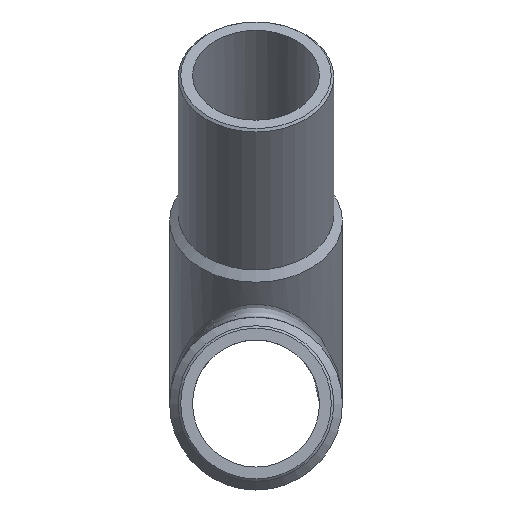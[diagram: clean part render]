
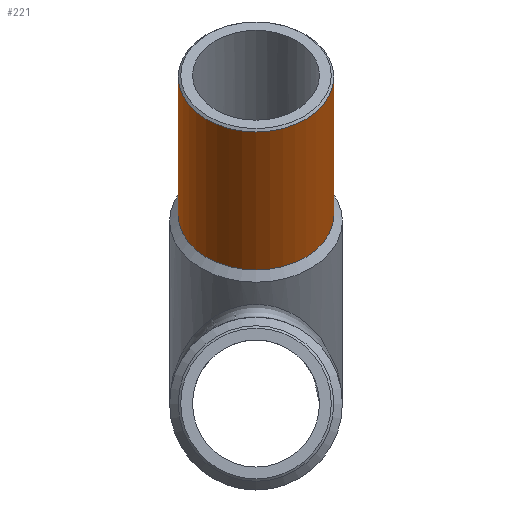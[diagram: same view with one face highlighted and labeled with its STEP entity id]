
A CAD part, left-side view. The second image highlights one B-rep face of the part: STEP entity #221.
In plain terms, the highlighted cylindrical face has radius 31.5 mm (diameter 63 mm), a full revolution.
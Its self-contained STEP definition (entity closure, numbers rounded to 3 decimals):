
#41=CIRCLE('',#267,31.5);
#42=CIRCLE('',#268,31.5);
#66=ORIENTED_EDGE('',*,*,#102,.T.);
#67=ORIENTED_EDGE('',*,*,#103,.T.);
#102=EDGE_CURVE('',#123,#123,#41,.T.);
#103=EDGE_CURVE('',#124,#124,#42,.T.);
#123=VERTEX_POINT('',#396);
#124=VERTEX_POINT('',#398);
#152=EDGE_LOOP('',(#66));
#153=EDGE_LOOP('',(#67));
#188=FACE_BOUND('',#152,.T.);
#189=FACE_BOUND('',#153,.T.);
#210=CYLINDRICAL_SURFACE('',#266,31.5);
#221=ADVANCED_FACE('',(#188,#189),#210,.T.);
#266=AXIS2_PLACEMENT_3D('',#394,#327,#328);
#267=AXIS2_PLACEMENT_3D('',#395,#329,#330);
#268=AXIS2_PLACEMENT_3D('',#397,#331,#332);
#327=DIRECTION('',(-0.707,0.,0.707));
#328=DIRECTION('',(0.707,0.,0.707));
#329=DIRECTION('',(0.707,0.,-0.707));
#330=DIRECTION('',(-0.707,0.,-0.707));
#331=DIRECTION('',(-0.707,0.,0.707));
#332=DIRECTION('',(0.707,0.,0.707));
#394=CARTESIAN_POINT('',(45.003,0.,0.));
#395=CARTESIAN_POINT('',(-87.225,0.,132.227));
#396=CARTESIAN_POINT('',(-109.499,0.,109.953));
#397=CARTESIAN_POINT('',(-31.363,0.,76.366));
#398=CARTESIAN_POINT('',(-9.089,0.,98.64));
